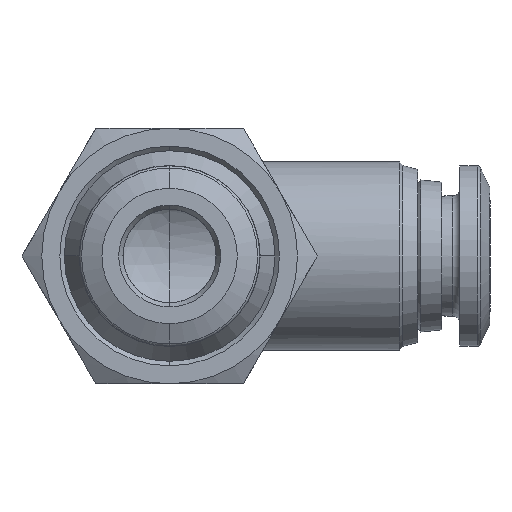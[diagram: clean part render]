
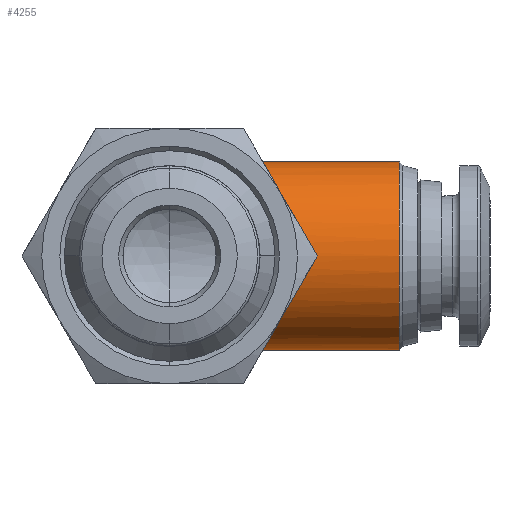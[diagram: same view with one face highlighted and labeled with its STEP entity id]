
A CAD part, front view. The second image highlights one B-rep face of the part: STEP entity #4255.
In plain terms, the highlighted cylindrical face has radius 6.25 mm (diameter 12.5 mm), a partial arc.
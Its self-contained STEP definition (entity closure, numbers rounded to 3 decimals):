
#140 =( BOUNDED_CURVE ( )  B_SPLINE_CURVE ( 3, ( #1988, #2110, #1893, #1864 ),
 .UNSPECIFIED., .F., .T. ) 
 B_SPLINE_CURVE_WITH_KNOTS ( ( 4, 4 ),
 ( 3.142, 4.348 ),
 .UNSPECIFIED. ) 
 CURVE ( )  GEOMETRIC_REPRESENTATION_ITEM ( )  RATIONAL_B_SPLINE_CURVE ( ( 1., 0.882, 0.882, 1. ) ) 
 REPRESENTATION_ITEM ( '' )  );
#297 = CARTESIAN_POINT ( 'NONE',  ( 6.25, 7.15, 0. ) ) ;
#330 = CYLINDRICAL_SURFACE ( 'NONE', #4908, 6.25 ) ;
#359 = CARTESIAN_POINT ( 'NONE',  ( 15.268, 13.4, 6.25 ) ) ;
#428 = ORIENTED_EDGE ( 'NONE', *, *, #7371, .F. ) ;
#457 = VERTEX_POINT ( 'NONE', #3395 ) ;
#578 = EDGE_CURVE ( 'NONE', #591, #457, #5484, .T. ) ;
#591 = VERTEX_POINT ( 'NONE', #4851 ) ;
#804 = CARTESIAN_POINT ( 'NONE',  ( 0., 13.4, 0. ) ) ;
#827 = DIRECTION ( 'NONE',  ( 0., 0., 1. ) ) ;
#941 =( BOUNDED_CURVE ( )  B_SPLINE_CURVE ( 3, ( #4991, #5268, #5098, #2587 ),
 .UNSPECIFIED., .F., .T. ) 
 B_SPLINE_CURVE_WITH_KNOTS ( ( 4, 4 ),
 ( 1.206, 1.571 ),
 .UNSPECIFIED. ) 
 CURVE ( )  GEOMETRIC_REPRESENTATION_ITEM ( )  RATIONAL_B_SPLINE_CURVE ( ( 1., 0.989, 0.989, 1. ) ) 
 REPRESENTATION_ITEM ( '' )  );
#1198 = LINE ( 'NONE', #4778, #4267 ) ;
#1864 = CARTESIAN_POINT ( 'NONE',  ( 2.228, 11.172, -5.839 ) ) ;
#1893 = CARTESIAN_POINT ( 'NONE',  ( 4.731, 8.669, -4.884 ) ) ;
#1988 = CARTESIAN_POINT ( 'NONE',  ( 6.25, 7.15, 0. ) ) ;
#2092 = EDGE_LOOP ( 'NONE', ( #428, #4107, #2399, #4315, #7700, #7912, #6108 ) ) ;
#2110 = CARTESIAN_POINT ( 'NONE',  ( 6.25, 7.15, -2.678 ) ) ;
#2399 = ORIENTED_EDGE ( 'NONE', *, *, #7065, .T. ) ;
#2587 = CARTESIAN_POINT ( 'NONE',  ( 2.825, 13.4, -6.25 ) ) ;
#2622 = EDGE_CURVE ( 'NONE', #6155, #4009, #941, .T. ) ;
#2668 = CARTESIAN_POINT ( 'NONE',  ( 15.268, 13.4, -6.25 ) ) ;
#2748 = VERTEX_POINT ( 'NONE', #3201 ) ;
#2758 = CARTESIAN_POINT ( 'NONE',  ( 2.228, 11.172, -5.839 ) ) ;
#3097 = DIRECTION ( 'NONE',  ( -1., 0., 0. ) ) ;
#3201 = CARTESIAN_POINT ( 'NONE',  ( 6.25, 7.15, 0. ) ) ;
#3284 = EDGE_CURVE ( 'NONE', #2748, #6155, #140, .T. ) ;
#3395 = CARTESIAN_POINT ( 'NONE',  ( 2.228, 11.172, 5.839 ) ) ;
#3955 = CARTESIAN_POINT ( 'NONE',  ( 4.731, 8.669, 4.884 ) ) ;
#3985 = CARTESIAN_POINT ( 'NONE',  ( 6.25, 7.15, 2.678 ) ) ;
#4009 = VERTEX_POINT ( 'NONE', #6391 ) ;
#4061 = CARTESIAN_POINT ( 'NONE',  ( 2.621, 12.636, 6.25 ) ) ;
#4091 = CARTESIAN_POINT ( 'NONE',  ( 2.825, 13.4, 6.25 ) ) ;
#4107 = ORIENTED_EDGE ( 'NONE', *, *, #5991, .T. ) ;
#4172 = CARTESIAN_POINT ( 'NONE',  ( 2.419, 11.885, 6.112 ) ) ;
#4233 = CARTESIAN_POINT ( 'NONE',  ( 2.228, 11.172, 5.839 ) ) ;
#4255 = ADVANCED_FACE ( 'NONE', ( #5936 ), #330, .T. ) ;
#4267 = VECTOR ( 'NONE', #7937, 1000. ) ;
#4315 = ORIENTED_EDGE ( 'NONE', *, *, #578, .T. ) ;
#4591 = CARTESIAN_POINT ( 'NONE',  ( 2.228, 11.172, 5.839 ) ) ;
#4652 = VECTOR ( 'NONE', #6976, 1000. ) ;
#4778 = CARTESIAN_POINT ( 'NONE',  ( 0., 13.4, 6.25 ) ) ;
#4851 = CARTESIAN_POINT ( 'NONE',  ( 2.825, 13.4, 6.25 ) ) ;
#4876 = LINE ( 'NONE', #6352, #4652 ) ;
#4908 = AXIS2_PLACEMENT_3D ( 'NONE', #804, #6462, #827 ) ;
#4991 = CARTESIAN_POINT ( 'NONE',  ( 2.228, 11.172, -5.839 ) ) ;
#5098 = CARTESIAN_POINT ( 'NONE',  ( 2.621, 12.636, -6.25 ) ) ;
#5140 = EDGE_CURVE ( 'NONE', #457, #2748, #6617, .T. ) ;
#5268 = CARTESIAN_POINT ( 'NONE',  ( 2.419, 11.885, -6.112 ) ) ;
#5484 =( BOUNDED_CURVE ( )  B_SPLINE_CURVE ( 3, ( #4091, #4061, #4172, #4233 ),
 .UNSPECIFIED., .F., .T. ) 
 B_SPLINE_CURVE_WITH_KNOTS ( ( 4, 4 ),
 ( 4.712, 5.077 ),
 .UNSPECIFIED. ) 
 CURVE ( )  GEOMETRIC_REPRESENTATION_ITEM ( )  RATIONAL_B_SPLINE_CURVE ( ( 1., 0.989, 0.989, 1. ) ) 
 REPRESENTATION_ITEM ( '' )  );
#5936 = FACE_OUTER_BOUND ( 'NONE', #2092, .T. ) ;
#5991 = EDGE_CURVE ( 'NONE', #6863, #7978, #7998, .T. ) ;
#6108 = ORIENTED_EDGE ( 'NONE', *, *, #2622, .T. ) ;
#6155 = VERTEX_POINT ( 'NONE', #2758 ) ;
#6352 = CARTESIAN_POINT ( 'NONE',  ( 0., 13.4, -6.25 ) ) ;
#6391 = CARTESIAN_POINT ( 'NONE',  ( 2.825, 13.4, -6.25 ) ) ;
#6462 = DIRECTION ( 'NONE',  ( -1., 0., 0. ) ) ;
#6617 =( BOUNDED_CURVE ( )  B_SPLINE_CURVE ( 3, ( #4591, #3955, #3985, #297 ),
 .UNSPECIFIED., .F., .T. ) 
 B_SPLINE_CURVE_WITH_KNOTS ( ( 4, 4 ),
 ( 1.935, 3.142 ),
 .UNSPECIFIED. ) 
 CURVE ( )  GEOMETRIC_REPRESENTATION_ITEM ( )  RATIONAL_B_SPLINE_CURVE ( ( 1., 0.882, 0.882, 1. ) ) 
 REPRESENTATION_ITEM ( '' )  );
#6863 = VERTEX_POINT ( 'NONE', #2668 ) ;
#6890 = CARTESIAN_POINT ( 'NONE',  ( 15.268, 13.4, 0. ) ) ;
#6976 = DIRECTION ( 'NONE',  ( -1., 0., 0. ) ) ;
#7065 = EDGE_CURVE ( 'NONE', #7978, #591, #1198, .T. ) ;
#7371 = EDGE_CURVE ( 'NONE', #6863, #4009, #4876, .T. ) ;
#7438 = AXIS2_PLACEMENT_3D ( 'NONE', #6890, #3097, #7523 ) ;
#7523 = DIRECTION ( 'NONE',  ( 0., 0., 1. ) ) ;
#7700 = ORIENTED_EDGE ( 'NONE', *, *, #5140, .T. ) ;
#7912 = ORIENTED_EDGE ( 'NONE', *, *, #3284, .T. ) ;
#7937 = DIRECTION ( 'NONE',  ( -1., 0., 0. ) ) ;
#7978 = VERTEX_POINT ( 'NONE', #359 ) ;
#7998 = CIRCLE ( 'NONE', #7438, 6.25 ) ;
